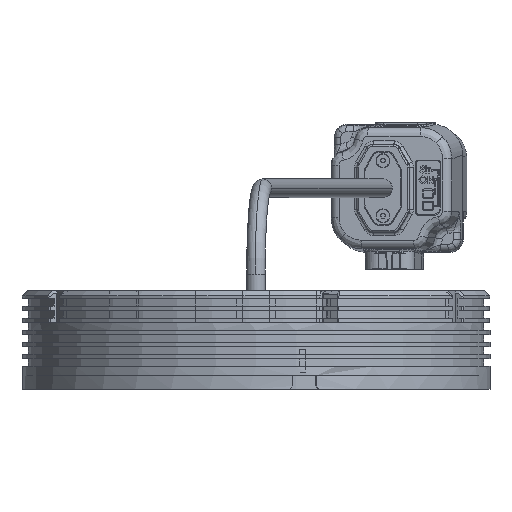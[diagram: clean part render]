
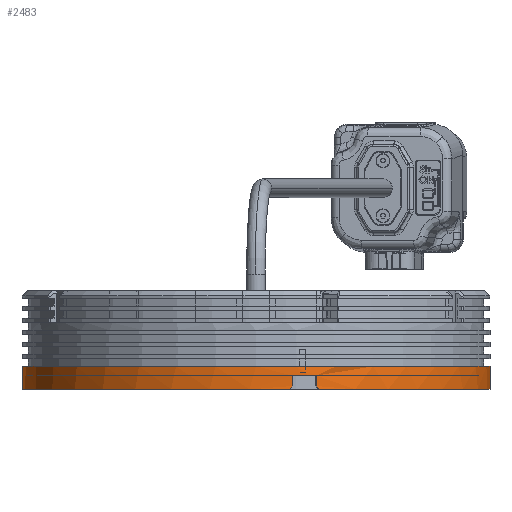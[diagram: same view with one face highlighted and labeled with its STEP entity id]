
A CAD part, front view. The second image highlights one B-rep face of the part: STEP entity #2483.
In plain terms, the highlighted cylindrical face has radius 68 mm (diameter 136 mm), a partial arc.
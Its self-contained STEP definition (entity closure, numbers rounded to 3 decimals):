
#833 = CYLINDRICAL_SURFACE ( 'NONE', #19036, 68. ) ;
#834 = DIRECTION ( 'NONE',  ( 0., 0., -1. ) ) ;
#1676 = CARTESIAN_POINT ( 'NONE',  ( 10.7, -67.153, 1. ) ) ;
#2483 = ADVANCED_FACE ( 'NONE', ( #11276 ), #833, .T. ) ;
#3175 = AXIS2_PLACEMENT_3D ( 'NONE', #50326, #49675, #35586 ) ;
#7155 = DIRECTION ( 'NONE',  ( 0., 0., -1. ) ) ;
#7481 = ORIENTED_EDGE ( 'NONE', *, *, #17607, .T. ) ;
#9341 = CARTESIAN_POINT ( 'NONE',  ( -68., 0., 0. ) ) ;
#10031 = CARTESIAN_POINT ( 'NONE',  ( 68., 0., 6.7 ) ) ;
#10069 = CARTESIAN_POINT ( 'NONE',  ( -68., 0., 6.7 ) ) ;
#10096 = CIRCLE ( 'NONE', #61201, 68. ) ;
#10718 = ORIENTED_EDGE ( 'NONE', *, *, #20515, .T. ) ;
#11276 = FACE_OUTER_BOUND ( 'NONE', #36240, .T. ) ;
#11482 = ORIENTED_EDGE ( 'NONE', *, *, #12062, .F. ) ;
#11578 = CARTESIAN_POINT ( 'NONE',  ( 0., 0., 4. ) ) ;
#11897 = ORIENTED_EDGE ( 'NONE', *, *, #13751, .T. ) ;
#12062 = EDGE_CURVE ( 'NONE', #15265, #62339, #22132, .T. ) ;
#12809 = DIRECTION ( 'NONE',  ( 1., 0., 0. ) ) ;
#13751 = EDGE_CURVE ( 'NONE', #35921, #43840, #40683, .T. ) ;
#15265 = VERTEX_POINT ( 'NONE', #51526 ) ;
#15887 = AXIS2_PLACEMENT_3D ( 'NONE', #52102, #43250, #38026 ) ;
#15899 = CARTESIAN_POINT ( 'NONE',  ( 18.503, -65.434, 0. ) ) ;
#17355 = CARTESIAN_POINT ( 'NONE',  ( 0., 0., 0. ) ) ;
#17607 = EDGE_CURVE ( 'NONE', #30964, #46351, #45537, .T. ) ;
#19036 = AXIS2_PLACEMENT_3D ( 'NONE', #60916, #41270, #26242 ) ;
#20069 = CARTESIAN_POINT ( 'NONE',  ( 17.538, -65.699, 4. ) ) ;
#20303 = AXIS2_PLACEMENT_3D ( 'NONE', #11578, #50753, #36018 ) ;
#20515 = EDGE_CURVE ( 'NONE', #48763, #62339, #41730, .T. ) ;
#20600 = LINE ( 'NONE', #30074, #59424 ) ;
#21629 = VECTOR ( 'NONE', #834, 1000. ) ;
#21846 = CARTESIAN_POINT ( 'NONE',  ( 17.538, -65.699, 1. ) ) ;
#21850 = CARTESIAN_POINT ( 'NONE',  ( 9.712, -67.303, 0. ) ) ;
#22132 = LINE ( 'NONE', #61384, #32749 ) ;
#22254 = ORIENTED_EDGE ( 'NONE', *, *, #52350, .F. ) ;
#25675 = CARTESIAN_POINT ( 'NONE',  ( 68., 0., 0. ) ) ;
#26242 = DIRECTION ( 'NONE',  ( -1., 0., 0. ) ) ;
#26446 = CARTESIAN_POINT ( 'NONE',  ( 17.86, -65.613, 0.667 ) ) ;
#26546 = CIRCLE ( 'NONE', #20303, 68. ) ;
#27443 = LINE ( 'NONE', #32036, #47633 ) ;
#29739 = DIRECTION ( 'NONE',  ( 0., 0., -1. ) ) ;
#30074 = CARTESIAN_POINT ( 'NONE',  ( -68., 0., 28.7 ) ) ;
#30744 =( BOUNDED_CURVE ( )  B_SPLINE_CURVE ( 3, ( #21846, #26446, #32293, #56205 ),
 .UNSPECIFIED., .F., .F. ) 
 B_SPLINE_CURVE_WITH_KNOTS ( ( 4, 4 ),
 ( 4.712, 4.727 ),
 .UNSPECIFIED. ) 
 CURVE ( )  GEOMETRIC_REPRESENTATION_ITEM ( )  RATIONAL_B_SPLINE_CURVE ( ( 1., 1., 1., 1. ) ) 
 REPRESENTATION_ITEM ( '' )  );
#30964 = VERTEX_POINT ( 'NONE', #40469 ) ;
#32036 = CARTESIAN_POINT ( 'NONE',  ( 68., 0., 28.7 ) ) ;
#32182 = VERTEX_POINT ( 'NONE', #10069 ) ;
#32293 = CARTESIAN_POINT ( 'NONE',  ( 18.182, -65.525, 0.333 ) ) ;
#32749 = VECTOR ( 'NONE', #7155, 1000. ) ;
#34803 = EDGE_CURVE ( 'NONE', #54061, #48763, #10096, .T. ) ;
#34990 = CARTESIAN_POINT ( 'NONE',  ( 9.712, -67.303, 0. ) ) ;
#35586 = DIRECTION ( 'NONE',  ( 1., 0., 0. ) ) ;
#35921 = VERTEX_POINT ( 'NONE', #15899 ) ;
#36018 = DIRECTION ( 'NONE',  ( -1., 0., 0. ) ) ;
#36240 = EDGE_LOOP ( 'NONE', ( #22254, #56011, #60564, #59728, #10718, #11482, #58856, #7481, #48007, #11897 ) ) ;
#38026 = DIRECTION ( 'NONE',  ( 1., 0., 0. ) ) ;
#38906 = EDGE_CURVE ( 'NONE', #46351, #35921, #30744, .T. ) ;
#40469 = CARTESIAN_POINT ( 'NONE',  ( 17.538, -65.699, 4. ) ) ;
#40683 = CIRCLE ( 'NONE', #3175, 68. ) ;
#41270 = DIRECTION ( 'NONE',  ( 0., 0., -1. ) ) ;
#41730 =( BOUNDED_CURVE ( )  B_SPLINE_CURVE ( 3, ( #21850, #41779, #46378, #1676 ),
 .UNSPECIFIED., .F., .T. ) 
 B_SPLINE_CURVE_WITH_KNOTS ( ( 4, 4 ),
 ( 1.556, 1.571 ),
 .UNSPECIFIED. ) 
 CURVE ( )  GEOMETRIC_REPRESENTATION_ITEM ( )  RATIONAL_B_SPLINE_CURVE ( ( 1., 1., 1., 1. ) ) 
 REPRESENTATION_ITEM ( '' )  );
#41779 = CARTESIAN_POINT ( 'NONE',  ( 10.042, -67.255, 0.333 ) ) ;
#42689 = VERTEX_POINT ( 'NONE', #10031 ) ;
#43250 = DIRECTION ( 'NONE',  ( 0., 0., 1. ) ) ;
#43840 = VERTEX_POINT ( 'NONE', #25675 ) ;
#45537 = LINE ( 'NONE', #20069, #21629 ) ;
#46351 = VERTEX_POINT ( 'NONE', #50430 ) ;
#46378 = CARTESIAN_POINT ( 'NONE',  ( 10.371, -67.205, 0.667 ) ) ;
#47387 = EDGE_CURVE ( 'NONE', #30964, #15265, #26546, .T. ) ;
#47633 = VECTOR ( 'NONE', #61480, 1000. ) ;
#48007 = ORIENTED_EDGE ( 'NONE', *, *, #38906, .T. ) ;
#48763 = VERTEX_POINT ( 'NONE', #34990 ) ;
#49675 = DIRECTION ( 'NONE',  ( 0., 0., 1. ) ) ;
#50326 = CARTESIAN_POINT ( 'NONE',  ( 0., 0., 0. ) ) ;
#50430 = CARTESIAN_POINT ( 'NONE',  ( 17.538, -65.699, 1. ) ) ;
#50753 = DIRECTION ( 'NONE',  ( 0., 0., -1. ) ) ;
#51526 = CARTESIAN_POINT ( 'NONE',  ( 10.7, -67.153, 4. ) ) ;
#52102 = CARTESIAN_POINT ( 'NONE',  ( 0., 0., 6.7 ) ) ;
#52350 = EDGE_CURVE ( 'NONE', #42689, #43840, #27443, .T. ) ;
#54061 = VERTEX_POINT ( 'NONE', #9341 ) ;
#56011 = ORIENTED_EDGE ( 'NONE', *, *, #63080, .F. ) ;
#56205 = CARTESIAN_POINT ( 'NONE',  ( 18.503, -65.434, 0. ) ) ;
#57561 = DIRECTION ( 'NONE',  ( 0., 0., 1. ) ) ;
#58765 = EDGE_CURVE ( 'NONE', #32182, #54061, #20600, .T. ) ;
#58856 = ORIENTED_EDGE ( 'NONE', *, *, #47387, .F. ) ;
#58926 = CARTESIAN_POINT ( 'NONE',  ( 10.7, -67.153, 1. ) ) ;
#59424 = VECTOR ( 'NONE', #29739, 1000. ) ;
#59728 = ORIENTED_EDGE ( 'NONE', *, *, #34803, .T. ) ;
#60564 = ORIENTED_EDGE ( 'NONE', *, *, #58765, .T. ) ;
#60916 = CARTESIAN_POINT ( 'NONE',  ( 0., 0., 28.7 ) ) ;
#61201 = AXIS2_PLACEMENT_3D ( 'NONE', #17355, #57561, #12809 ) ;
#61384 = CARTESIAN_POINT ( 'NONE',  ( 10.7, -67.153, 4. ) ) ;
#61480 = DIRECTION ( 'NONE',  ( 0., 0., -1. ) ) ;
#62339 = VERTEX_POINT ( 'NONE', #58926 ) ;
#63080 = EDGE_CURVE ( 'NONE', #32182, #42689, #63834, .T. ) ;
#63834 = CIRCLE ( 'NONE', #15887, 68. ) ;
